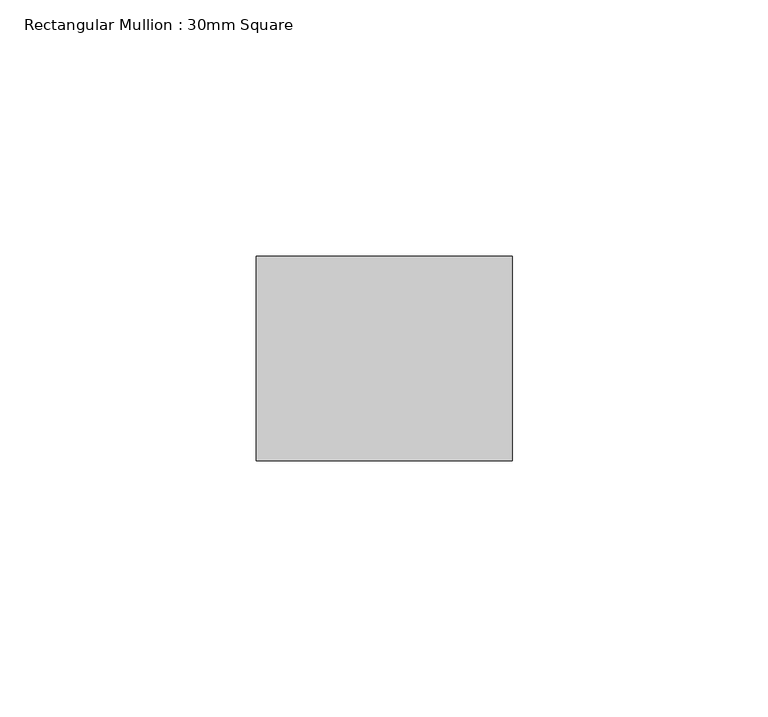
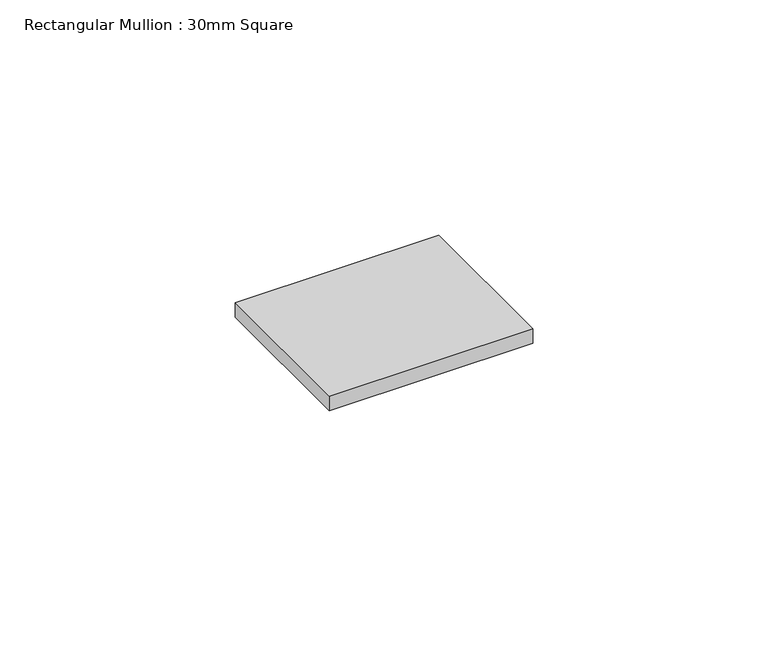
"""IFC4 building model written with IfcOpenShell, lengths in millimetres: member geometry, Rectangular Mullion : 30mm Square."""

from ifc_helpers import new_model, si_unit, frame, origin, place, context, project, spatial, polyline, outline, extrude, source, transform, mapped, element, save


def rectangular_mullion_30mm_square_86fe4f9d(model_context):
    return source(origin(), model_context, "Body", "SweptSolid", [
        extrude(outline(polyline([(0.0, 20.0), (0.0, -20.0), (-50.0, -20.0), (-50.0, 20.0), (0.0, 20.0)])), frame((0.0, 0.0, -3.8162338), z_axis=(0.0, 0.0, 1.0), x_axis=(1.0, 0.0, 0.0)), (0.0, 0.0, 1.0), 3.8162338),
    ])


if __name__ == "__main__":
    model = new_model("IFC4")
    model_context = context("Model", 3, world=origin())
    ifc_project = project(units=[si_unit("LENGTHUNIT", "METRE", prefix="MILLI")], contexts=[model_context])
    site = spatial("IfcSite", under=ifc_project)
    building = spatial("IfcBuilding", under=site)
    placement = place(None, origin())
    rectangular_mullion_30mm_square_shape = rectangular_mullion_30mm_square_86fe4f9d(model_context)
    element("IfcMember", 1, ObjectType="Rectangular Mullion : 30mm Square", at=placement, inside=building, context=model_context, shape_type="MappedRepresentation", body=[
        mapped(rectangular_mullion_30mm_square_shape, transform((0.0, 0.0, 0.0), x_axis=(1.0, 0.0, 0.0), y_axis=(0.0, 1.0, 0.0), z_axis=(0.0, 0.0, 1.0))),
    ])
    save(model, "model.ifc")
